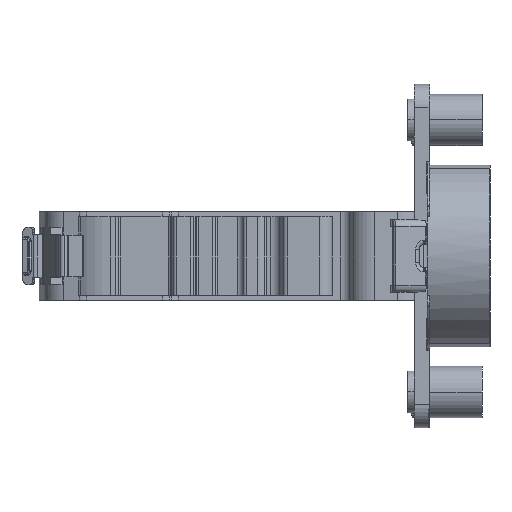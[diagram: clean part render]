
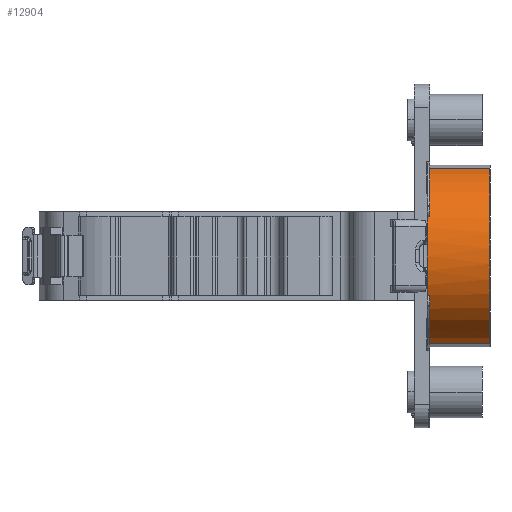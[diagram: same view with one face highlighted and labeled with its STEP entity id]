
A CAD part, front view. The second image highlights one B-rep face of the part: STEP entity #12904.
In plain terms, the highlighted cylindrical face has radius 17.4 mm (diameter 34.8 mm), a partial arc.
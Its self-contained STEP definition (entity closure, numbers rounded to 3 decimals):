
#65 = EDGE_CURVE ( 'NONE', #14713, #15488, #8522, .T. ) ;
#172 = VERTEX_POINT ( 'NONE', #1512 ) ;
#234 = CARTESIAN_POINT ( 'NONE',  ( 1.047, -10.2, -7.5 ) ) ;
#442 = CARTESIAN_POINT ( 'NONE',  ( 1.025, -10.109, 7.69 ) ) ;
#534 = DIRECTION ( 'NONE',  ( 0., 0., 1. ) ) ;
#555 = AXIS2_PLACEMENT_3D ( 'NONE', #14562, #15980, #9640 ) ;
#689 = CARTESIAN_POINT ( 'NONE',  ( 1.04, -10.171, 7.561 ) ) ;
#778 = CARTESIAN_POINT ( 'NONE',  ( 1.015, -10.061, 7.787 ) ) ;
#830 = CARTESIAN_POINT ( 'NONE',  ( 1.007, -10.009, -7.888 ) ) ;
#875 = CARTESIAN_POINT ( 'NONE',  ( 7., -10.201, -7.5 ) ) ;
#1092 = CIRCLE ( 'NONE', #7475, 17.4 ) ;
#1110 = ORIENTED_EDGE ( 'NONE', *, *, #15913, .T. ) ;
#1254 = VERTEX_POINT ( 'NONE', #234 ) ;
#1504 = VECTOR ( 'NONE', #14705, 1000. ) ;
#1512 = CARTESIAN_POINT ( 'NONE',  ( 1.5, 0.843, 16.766 ) ) ;
#1679 = DIRECTION ( 'NONE',  ( 0., 0., -1. ) ) ;
#1839 = CARTESIAN_POINT ( 'NONE',  ( 1.5, 0.843, -16.766 ) ) ;
#1864 = CARTESIAN_POINT ( 'NONE',  ( 1., -9.905, -8.09 ) ) ;
#1922 = B_SPLINE_CURVE_WITH_KNOTS ( 'NONE', 3,
 ( #8389, #8310, #7154, #830, #16216, #14714, #7323, #2333, #3247, #12224, #11141 ),
 .UNSPECIFIED., .F., .F.,
 ( 4, 1, 1, 1, 2, 2, 4 ),
 ( 0., 0.25, 0.375, 0.437, 0.469, 0.5, 1. ),
 .UNSPECIFIED. ) ;
#2333 = CARTESIAN_POINT ( 'NONE',  ( 1.014, -10.053, -7.801 ) ) ;
#2952 = CARTESIAN_POINT ( 'NONE',  ( 1.016, -10.065, 7.777 ) ) ;
#3247 = CARTESIAN_POINT ( 'NONE',  ( 1.021, -10.094, -7.72 ) ) ;
#3322 = EDGE_LOOP ( 'NONE', ( #11002, #8885, #1110, #10106, #14318, #13593, #5967, #11883, #3669, #10868 ) ) ;
#3669 = ORIENTED_EDGE ( 'NONE', *, *, #4911, .T. ) ;
#4169 = CARTESIAN_POINT ( 'NONE',  ( 1.5, 5.5, 0. ) ) ;
#4450 = CARTESIAN_POINT ( 'NONE',  ( 1.017, -10.073, 7.762 ) ) ;
#4490 = LINE ( 'NONE', #10878, #1504 ) ;
#4529 = CARTESIAN_POINT ( 'NONE',  ( 1.047, -10.2, 7.5 ) ) ;
#4589 = CARTESIAN_POINT ( 'NONE',  ( 1., 5.5, 0. ) ) ;
#4779 = CARTESIAN_POINT ( 'NONE',  ( 9.167, 0.843, 16.765 ) ) ;
#4789 = VERTEX_POINT ( 'NONE', #9521 ) ;
#4911 = EDGE_CURVE ( 'NONE', #1254, #4789, #8351, .T. ) ;
#5457 = VERTEX_POINT ( 'NONE', #15491 ) ;
#5670 = DIRECTION ( 'NONE',  ( 0., 0., 1. ) ) ;
#5690 = CARTESIAN_POINT ( 'NONE',  ( 1., -9.905, 8.09 ) ) ;
#5944 = CARTESIAN_POINT ( 'NONE',  ( 13., 5.5, 0. ) ) ;
#5952 = DIRECTION ( 'NONE',  ( 1., 0., 0. ) ) ;
#5967 = ORIENTED_EDGE ( 'NONE', *, *, #9251, .T. ) ;
#6313 = CARTESIAN_POINT ( 'NONE',  ( 5.333, 0.843, -16.765 ) ) ;
#6481 = CARTESIAN_POINT ( 'NONE',  ( 9.167, 0.843, -16.765 ) ) ;
#6944 = CARTESIAN_POINT ( 'NONE',  ( 1.005, -10.002, 7.904 ) ) ;
#7154 = CARTESIAN_POINT ( 'NONE',  ( 1.002, -9.965, -7.976 ) ) ;
#7244 = EDGE_CURVE ( 'NONE', #12837, #7391, #4490, .T. ) ;
#7323 = CARTESIAN_POINT ( 'NONE',  ( 1.013, -10.049, -7.81 ) ) ;
#7391 = VERTEX_POINT ( 'NONE', #11684 ) ;
#7471 = EDGE_CURVE ( 'NONE', #7391, #5457, #12194, .T. ) ;
#7475 = AXIS2_PLACEMENT_3D ( 'NONE', #4589, #10734, #5670 ) ;
#7500 = VERTEX_POINT ( 'NONE', #1864 ) ;
#7860 = VERTEX_POINT ( 'NONE', #1839 ) ;
#8000 = CARTESIAN_POINT ( 'NONE',  ( 13., 5.5, 0. ) ) ;
#8268 = CARTESIAN_POINT ( 'NONE',  ( 1.5, 0.843, 16.766 ) ) ;
#8310 = CARTESIAN_POINT ( 'NONE',  ( 1., -9.928, -8.046 ) ) ;
#8351 = LINE ( 'NONE', #875, #15617 ) ;
#8389 = CARTESIAN_POINT ( 'NONE',  ( 1., -9.905, -8.09 ) ) ;
#8439 = AXIS2_PLACEMENT_3D ( 'NONE', #4169, #9236, #11811 ) ;
#8522 = CIRCLE ( 'NONE', #10376, 17.4 ) ;
#8885 = ORIENTED_EDGE ( 'NONE', *, *, #65, .F. ) ;
#9236 = DIRECTION ( 'NONE',  ( -1., 0., 0. ) ) ;
#9251 = EDGE_CURVE ( 'NONE', #5457, #7500, #1092, .T. ) ;
#9270 = CARTESIAN_POINT ( 'NONE',  ( 13., 0.843, 16.766 ) ) ;
#9323 = EDGE_CURVE ( 'NONE', #12837, #172, #12260, .T. ) ;
#9352 = CARTESIAN_POINT ( 'NONE',  ( 1.021, -10.091, 7.725 ) ) ;
#9493 = CIRCLE ( 'NONE', #8439, 17.4 ) ;
#9521 = CARTESIAN_POINT ( 'NONE',  ( 1.5, -10.201, -7.5 ) ) ;
#9633 = CARTESIAN_POINT ( 'NONE',  ( 1.5, 0.843, -16.766 ) ) ;
#9640 = DIRECTION ( 'NONE',  ( 0., 0., 1. ) ) ;
#9831 = CARTESIAN_POINT ( 'NONE',  ( 13., 0.843, 16.766 ) ) ;
#10106 = ORIENTED_EDGE ( 'NONE', *, *, #9323, .F. ) ;
#10376 = AXIS2_PLACEMENT_3D ( 'NONE', #8000, #15735, #1679 ) ;
#10734 = DIRECTION ( 'NONE',  ( 1., 0., 0. ) ) ;
#10868 = ORIENTED_EDGE ( 'NONE', *, *, #14554, .F. ) ;
#10878 = CARTESIAN_POINT ( 'NONE',  ( 7., -10.201, 7.5 ) ) ;
#11002 = ORIENTED_EDGE ( 'NONE', *, *, #13367, .T. ) ;
#11141 = CARTESIAN_POINT ( 'NONE',  ( 1.047, -10.2, -7.5 ) ) ;
#11488 = CARTESIAN_POINT ( 'NONE',  ( 13., 0.843, -16.766 ) ) ;
#11552 = CARTESIAN_POINT ( 'NONE',  ( 13., 0.843, -16.766 ) ) ;
#11684 = CARTESIAN_POINT ( 'NONE',  ( 1.047, -10.2, 7.5 ) ) ;
#11811 = DIRECTION ( 'NONE',  ( 0., 0., 1. ) ) ;
#11883 = ORIENTED_EDGE ( 'NONE', *, *, #13239, .T. ) ;
#12180 = CARTESIAN_POINT ( 'NONE',  ( 5.333, 0.843, 16.765 ) ) ;
#12194 = B_SPLINE_CURVE_WITH_KNOTS ( 'NONE', 3,
 ( #4529, #689, #13262, #442, #9352, #4450, #2952, #778, #13347, #6944, #15754, #5690 ),
 .UNSPECIFIED., .F., .F.,
 ( 4, 2, 1, 1, 2, 2, 4 ),
 ( 0., 0.25, 0.375, 0.438, 0.469, 0.5, 1. ),
 .UNSPECIFIED. ) ;
#12224 = CARTESIAN_POINT ( 'NONE',  ( 1.032, -10.142, -7.622 ) ) ;
#12260 = CIRCLE ( 'NONE', #555, 17.4 ) ;
#12837 = VERTEX_POINT ( 'NONE', #15923 ) ;
#12904 = ADVANCED_FACE ( 'NONE', ( #15759 ), #14751, .T. ) ;
#13022 = B_SPLINE_CURVE_WITH_KNOTS ( 'NONE', 3,
 ( #9633, #6313, #6481, #11552 ),
 .UNSPECIFIED., .F., .F.,
 ( 4, 4 ),
 ( 0., 1. ),
 .UNSPECIFIED. ) ;
#13183 = AXIS2_PLACEMENT_3D ( 'NONE', #5944, #16087, #534 ) ;
#13239 = EDGE_CURVE ( 'NONE', #7500, #1254, #1922, .T. ) ;
#13262 = CARTESIAN_POINT ( 'NONE',  ( 1.033, -10.145, 7.616 ) ) ;
#13347 = CARTESIAN_POINT ( 'NONE',  ( 1.015, -10.059, 7.789 ) ) ;
#13367 = EDGE_CURVE ( 'NONE', #7860, #15488, #13022, .T. ) ;
#13593 = ORIENTED_EDGE ( 'NONE', *, *, #7471, .T. ) ;
#14318 = ORIENTED_EDGE ( 'NONE', *, *, #7244, .T. ) ;
#14336 = B_SPLINE_CURVE_WITH_KNOTS ( 'NONE', 3,
 ( #9831, #4779, #12180, #8268 ),
 .UNSPECIFIED., .F., .F.,
 ( 4, 4 ),
 ( 0., 1. ),
 .UNSPECIFIED. ) ;
#14554 = EDGE_CURVE ( 'NONE', #7860, #4789, #9493, .T. ) ;
#14562 = CARTESIAN_POINT ( 'NONE',  ( 1.5, 5.5, 0. ) ) ;
#14705 = DIRECTION ( 'NONE',  ( -1., 0., 0. ) ) ;
#14713 = VERTEX_POINT ( 'NONE', #9270 ) ;
#14714 = CARTESIAN_POINT ( 'NONE',  ( 1.012, -10.042, -7.823 ) ) ;
#14751 = CYLINDRICAL_SURFACE ( 'NONE', #13183, 17.4 ) ;
#15488 = VERTEX_POINT ( 'NONE', #11488 ) ;
#15491 = CARTESIAN_POINT ( 'NONE',  ( 1., -9.905, 8.09 ) ) ;
#15617 = VECTOR ( 'NONE', #5952, 1000. ) ;
#15735 = DIRECTION ( 'NONE',  ( 1., 0., 0. ) ) ;
#15754 = CARTESIAN_POINT ( 'NONE',  ( 1., -9.951, 8.001 ) ) ;
#15759 = FACE_OUTER_BOUND ( 'NONE', #3322, .T. ) ;
#15913 = EDGE_CURVE ( 'NONE', #14713, #172, #14336, .T. ) ;
#15923 = CARTESIAN_POINT ( 'NONE',  ( 1.5, -10.201, 7.5 ) ) ;
#15980 = DIRECTION ( 'NONE',  ( -1., 0., 0. ) ) ;
#16087 = DIRECTION ( 'NONE',  ( -1., 0., 0. ) ) ;
#16216 = CARTESIAN_POINT ( 'NONE',  ( 1.01, -10.032, -7.843 ) ) ;
